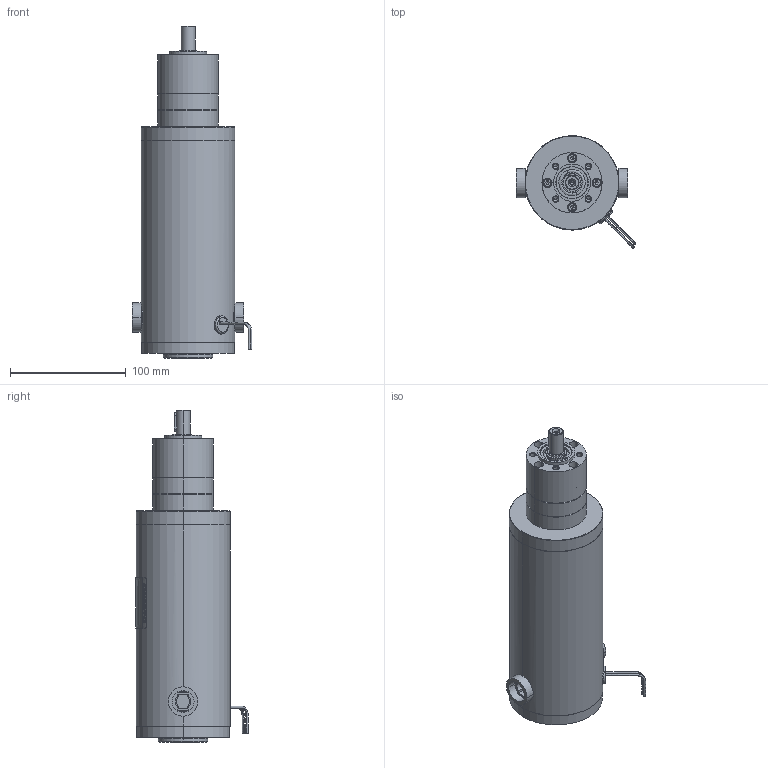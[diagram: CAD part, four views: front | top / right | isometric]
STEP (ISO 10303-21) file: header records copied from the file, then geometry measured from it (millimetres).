
FILE_DESCRIPTION (( 'STEP AP214' ), '1' );
FILE_NAME ('PM8018LV-PL5200i_2S.STEP', '2013-05-01T20:14:40', ( '' ), ( '' ), 'SwSTEP 2.0', 'SolidWorks 2013', '' );
FILE_SCHEMA (( 'AUTOMOTIVE_DESIGN' ));
Length unit declared in the file: inch
Products named in the file (1): PM8018LV-PL5200i_2S
Bounding box: 103.14 x 96.83 x 286.53 mm (x, y, z)
Surface area: 204484.1 mm2 (no closed solid volume)
Topology: 0 solids, 40 shells, 2085 faces, 5438 edges, 3461 vertices
Faces by surface type: cylinder 724, plane 647, bspline 320, torus 208, cone 149, sphere 37
Entity records: 112182 total; most frequent: CARTESIAN_POINT 35197, ORIENTED_EDGE 10712, DIRECTION 9807, EDGE_CURVE 5366, AXIS2_PLACEMENT_3D 3781, VERTEX_POINT 3444, EDGE_LOOP 2292, VECTOR 2245
